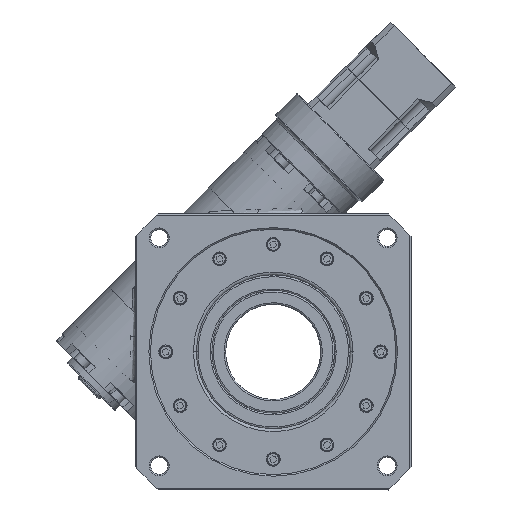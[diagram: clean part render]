
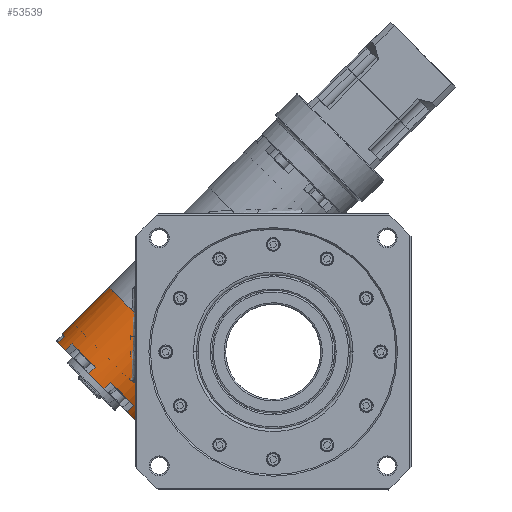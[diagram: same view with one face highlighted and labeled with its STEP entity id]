
A CAD part, front view. The second image highlights one B-rep face of the part: STEP entity #53539.
In plain terms, the highlighted cylindrical face has radius 37.5 mm (diameter 75 mm), a partial arc.
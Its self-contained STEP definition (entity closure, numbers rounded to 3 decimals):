
#22 = VECTOR ( 'NONE', #42313, 1000. ) ;
#556 = VERTEX_POINT ( 'NONE', #17928 ) ;
#611 = CARTESIAN_POINT ( 'NONE',  ( -16.566, -129.703, 58.207 ) ) ;
#612 = CARTESIAN_POINT ( 'NONE',  ( 39.145, -95.205, 45.965 ) ) ;
#816 = VERTEX_POINT ( 'NONE', #9110 ) ;
#972 = EDGE_CURVE ( 'NONE', #816, #16162, #9720, .T. ) ;
#1223 = AXIS2_PLACEMENT_3D ( 'NONE', #54467, #37429, #54764 ) ;
#1258 = CARTESIAN_POINT ( 'NONE',  ( 39.901, -85.964, 58.207 ) ) ;
#2791 = DIRECTION ( 'NONE',  ( 0.707, -0.707, 0. ) ) ;
#3148 = VECTOR ( 'NONE', #22027, 1000. ) ;
#3621 = AXIS2_PLACEMENT_3D ( 'NONE', #31977, #37576, #14004 ) ;
#3651 = DIRECTION ( 'NONE',  ( -0.707, 0.707, 0. ) ) ;
#4034 = CARTESIAN_POINT ( 'NONE',  ( -0.961, -135.312, 45.965 ) ) ;
#4318 = AXIS2_PLACEMENT_3D ( 'NONE', #9536, #27483, #45448 ) ;
#4796 = DIRECTION ( 'NONE',  ( 0.707, 0.707, 0. ) ) ;
#4930 = EDGE_CURVE ( 'NONE', #50950, #24517, #57398, .T. ) ;
#4992 = DIRECTION ( 'NONE',  ( 0.707, 0.707, 0. ) ) ;
#5672 = ORIENTED_EDGE ( 'NONE', *, *, #40994, .T. ) ;
#5806 = VERTEX_POINT ( 'NONE', #4034 ) ;
#6564 = DIRECTION ( 'NONE',  ( 0.707, 0.707, 0. ) ) ;
#7679 = AXIS2_PLACEMENT_3D ( 'NONE', #55433, #18910, #6564 ) ;
#7968 = EDGE_CURVE ( 'NONE', #11636, #52741, #32364, .T. ) ;
#9110 = CARTESIAN_POINT ( 'NONE',  ( -42.073, -107.127, 70.5 ) ) ;
#9222 = VECTOR ( 'NONE', #45268, 1000. ) ;
#9524 = CARTESIAN_POINT ( 'NONE',  ( 14.094, -120.256, 33.672 ) ) ;
#9536 = CARTESIAN_POINT ( 'NONE',  ( 14.849, -111.016, 70.5 ) ) ;
#9720 = CIRCLE ( 'NONE', #42647, 37.5 ) ;
#10022 = CARTESIAN_POINT ( 'NONE',  ( 19.092, -115.258, 70.5 ) ) ;
#11073 = CARTESIAN_POINT ( 'NONE',  ( 3.487, -109.65, 33.672 ) ) ;
#11117 = EDGE_CURVE ( 'NONE', #556, #56408, #54522, .T. ) ;
#11636 = VERTEX_POINT ( 'NONE', #39675 ) ;
#12481 = ORIENTED_EDGE ( 'NONE', *, *, #47192, .T. ) ;
#12783 = ORIENTED_EDGE ( 'NONE', *, *, #7968, .T. ) ;
#12990 = VERTEX_POINT ( 'NONE', #56941 ) ;
#13868 = LINE ( 'NONE', #45082, #20412 ) ;
#14004 = DIRECTION ( 'NONE',  ( 0.707, 0.707, 0. ) ) ;
#14123 = ORIENTED_EDGE ( 'NONE', *, *, #972, .T. ) ;
#14970 = AXIS2_PLACEMENT_3D ( 'NONE', #10022, #45946, #4992 ) ;
#15161 = EDGE_LOOP ( 'NONE', ( #37381, #14123, #48615, #12783, #44066, #24331, #44254, #28658, #12481, #38173, #23914, #34613, #5672, #29861, #15659, #32159 ) ) ;
#15659 = ORIENTED_EDGE ( 'NONE', *, *, #24553, .T. ) ;
#16162 = VERTEX_POINT ( 'NONE', #27688 ) ;
#16288 = DIRECTION ( 'NONE',  ( -0.707, 0.707, 0. ) ) ;
#17531 = FACE_OUTER_BOUND ( 'NONE', #15161, .T. ) ;
#17928 = CARTESIAN_POINT ( 'NONE',  ( -10.202, -136.067, 58.207 ) ) ;
#18910 = DIRECTION ( 'NONE',  ( -0.707, 0.707, 0. ) ) ;
#19414 = DIRECTION ( 'NONE',  ( 0.707, 0.707, 0. ) ) ;
#20412 = VECTOR ( 'NONE', #49806, 1000. ) ;
#21281 = DIRECTION ( 'NONE',  ( -0.707, 0.707, 0. ) ) ;
#21813 = CARTESIAN_POINT ( 'NONE',  ( -11.568, -124.705, 45.965 ) ) ;
#21966 = LINE ( 'NONE', #41452, #9222 ) ;
#22027 = DIRECTION ( 'NONE',  ( -0.707, 0.707, 0. ) ) ;
#22413 = CARTESIAN_POINT ( 'NONE',  ( 34.903, -90.962, 45.965 ) ) ;
#22453 = CARTESIAN_POINT ( 'NONE',  ( 19.092, -115.258, 70.5 ) ) ;
#23011 = LINE ( 'NONE', #611, #31966 ) ;
#23503 = CARTESIAN_POINT ( 'NONE',  ( 19.847, -106.018, 33.672 ) ) ;
#23737 = AXIS2_PLACEMENT_3D ( 'NONE', #22453, #3651, #35210 ) ;
#23914 = ORIENTED_EDGE ( 'NONE', *, *, #50911, .T. ) ;
#24331 = ORIENTED_EDGE ( 'NONE', *, *, #42548, .T. ) ;
#24379 = CARTESIAN_POINT ( 'NONE',  ( -18.031, -131.168, 70.5 ) ) ;
#24517 = VERTEX_POINT ( 'NONE', #22413 ) ;
#24553 = EDGE_CURVE ( 'NONE', #51479, #556, #23011, .T. ) ;
#24684 = DIRECTION ( 'NONE',  ( -0.707, 0.707, 0. ) ) ;
#26878 = VECTOR ( 'NONE', #16288, 1000. ) ;
#27483 = DIRECTION ( 'NONE',  ( -0.707, 0.707, 0. ) ) ;
#27688 = CARTESIAN_POINT ( 'NONE',  ( 10.96, -54.094, 70.5 ) ) ;
#28658 = ORIENTED_EDGE ( 'NONE', *, *, #51170, .T. ) ;
#29287 = LINE ( 'NONE', #11073, #26878 ) ;
#29413 = LINE ( 'NONE', #24379, #37425 ) ;
#29672 = DIRECTION ( 'NONE',  ( 0.707, 0.707, 0. ) ) ;
#29750 = AXIS2_PLACEMENT_3D ( 'NONE', #51233, #24684, #19414 ) ;
#29861 = ORIENTED_EDGE ( 'NONE', *, *, #44022, .T. ) ;
#31008 = EDGE_CURVE ( 'NONE', #12990, #43722, #54119, .T. ) ;
#31286 = CIRCLE ( 'NONE', #23737, 37.5 ) ;
#31966 = VECTOR ( 'NONE', #21281, 1000. ) ;
#31977 = CARTESIAN_POINT ( 'NONE',  ( 8.485, -104.652, 70.5 ) ) ;
#32159 = ORIENTED_EDGE ( 'NONE', *, *, #11117, .T. ) ;
#32364 = CIRCLE ( 'NONE', #1223, 37.5 ) ;
#33166 = LINE ( 'NONE', #41726, #22 ) ;
#34613 = ORIENTED_EDGE ( 'NONE', *, *, #31008, .T. ) ;
#34808 = CARTESIAN_POINT ( 'NONE',  ( 44.143, -90.207, 58.207 ) ) ;
#35067 = CARTESIAN_POINT ( 'NONE',  ( 24.09, -110.26, 33.672 ) ) ;
#35210 = DIRECTION ( 'NONE',  ( 0.707, 0.707, 0. ) ) ;
#35364 = CARTESIAN_POINT ( 'NONE',  ( 28.539, -84.598, 45.965 ) ) ;
#36339 = CARTESIAN_POINT ( 'NONE',  ( 14.849, -111.016, 70.5 ) ) ;
#37381 = ORIENTED_EDGE ( 'NONE', *, *, #41552, .F. ) ;
#37425 = VECTOR ( 'NONE', #47705, 1000. ) ;
#37429 = DIRECTION ( 'NONE',  ( -0.707, 0.707, 0. ) ) ;
#37576 = DIRECTION ( 'NONE',  ( 0.707, -0.707, 0. ) ) ;
#38173 = ORIENTED_EDGE ( 'NONE', *, *, #45808, .T. ) ;
#38843 = EDGE_CURVE ( 'NONE', #52741, #55076, #13868, .T. ) ;
#39675 = CARTESIAN_POINT ( 'NONE',  ( 41.366, -84.499, 70.5 ) ) ;
#40994 = EDGE_CURVE ( 'NONE', #43722, #5806, #49559, .T. ) ;
#41042 = DIRECTION ( 'NONE',  ( -0.707, 0.707, 0. ) ) ;
#41421 = CARTESIAN_POINT ( 'NONE',  ( -11.667, -137.532, 70.5 ) ) ;
#41452 = CARTESIAN_POINT ( 'NONE',  ( 35.002, -78.135, 70.5 ) ) ;
#41552 = EDGE_CURVE ( 'NONE', #816, #56408, #29413, .T. ) ;
#41681 = EDGE_CURVE ( 'NONE', #16162, #11636, #21966, .T. ) ;
#41726 = CARTESIAN_POINT ( 'NONE',  ( 13.483, -99.654, 33.672 ) ) ;
#42313 = DIRECTION ( 'NONE',  ( 0.707, -0.707, 0. ) ) ;
#42548 = EDGE_CURVE ( 'NONE', #55076, #50950, #56353, .T. ) ;
#42647 = AXIS2_PLACEMENT_3D ( 'NONE', #48213, #2791, #29672 ) ;
#43722 = VERTEX_POINT ( 'NONE', #54337 ) ;
#44022 = EDGE_CURVE ( 'NONE', #5806, #51479, #53734, .T. ) ;
#44066 = ORIENTED_EDGE ( 'NONE', *, *, #38843, .T. ) ;
#44254 = ORIENTED_EDGE ( 'NONE', *, *, #4930, .T. ) ;
#45082 = CARTESIAN_POINT ( 'NONE',  ( 33.537, -79.6, 58.207 ) ) ;
#45268 = DIRECTION ( 'NONE',  ( 0.707, -0.707, 0. ) ) ;
#45448 = DIRECTION ( 'NONE',  ( 0.707, 0.707, 0. ) ) ;
#45808 = EDGE_CURVE ( 'NONE', #47611, #54923, #31286, .T. ) ;
#45946 = DIRECTION ( 'NONE',  ( -0.707, 0.707, 0. ) ) ;
#47192 = EDGE_CURVE ( 'NONE', #49645, #47611, #33166, .T. ) ;
#47611 = VERTEX_POINT ( 'NONE', #35067 ) ;
#47705 = DIRECTION ( 'NONE',  ( 0.707, -0.707, 0. ) ) ;
#48213 = CARTESIAN_POINT ( 'NONE',  ( -15.556, -80.61, 70.5 ) ) ;
#48615 = ORIENTED_EDGE ( 'NONE', *, *, #41681, .T. ) ;
#48701 = DIRECTION ( 'NONE',  ( 0.707, -0.707, 0. ) ) ;
#49077 = CYLINDRICAL_SURFACE ( 'NONE', #3621, 37.5 ) ;
#49559 = LINE ( 'NONE', #21813, #57990 ) ;
#49645 = VERTEX_POINT ( 'NONE', #23503 ) ;
#49806 = DIRECTION ( 'NONE',  ( 0.707, -0.707, 0. ) ) ;
#50911 = EDGE_CURVE ( 'NONE', #54923, #12990, #29287, .T. ) ;
#50950 = VERTEX_POINT ( 'NONE', #612 ) ;
#51170 = EDGE_CURVE ( 'NONE', #24517, #49645, #55118, .T. ) ;
#51233 = CARTESIAN_POINT ( 'NONE',  ( 14.849, -111.016, 70.5 ) ) ;
#51479 = VERTEX_POINT ( 'NONE', #58151 ) ;
#52741 = VERTEX_POINT ( 'NONE', #1258 ) ;
#53539 = ADVANCED_FACE ( 'NONE', ( #17531 ), #49077, .T. ) ;
#53626 = AXIS2_PLACEMENT_3D ( 'NONE', #36339, #41042, #4796 ) ;
#53734 = CIRCLE ( 'NONE', #7679, 37.5 ) ;
#54119 = CIRCLE ( 'NONE', #4318, 37.5 ) ;
#54337 = CARTESIAN_POINT ( 'NONE',  ( -5.204, -131.069, 45.965 ) ) ;
#54467 = CARTESIAN_POINT ( 'NONE',  ( 14.849, -111.016, 70.5 ) ) ;
#54522 = CIRCLE ( 'NONE', #53626, 37.5 ) ;
#54764 = DIRECTION ( 'NONE',  ( 0.707, 0.707, 0. ) ) ;
#54923 = VERTEX_POINT ( 'NONE', #9524 ) ;
#55076 = VERTEX_POINT ( 'NONE', #34808 ) ;
#55118 = CIRCLE ( 'NONE', #29750, 37.5 ) ;
#55433 = CARTESIAN_POINT ( 'NONE',  ( 19.092, -115.258, 70.5 ) ) ;
#56353 = CIRCLE ( 'NONE', #14970, 37.5 ) ;
#56408 = VERTEX_POINT ( 'NONE', #41421 ) ;
#56941 = CARTESIAN_POINT ( 'NONE',  ( 9.851, -116.014, 33.672 ) ) ;
#57398 = LINE ( 'NONE', #35364, #3148 ) ;
#57990 = VECTOR ( 'NONE', #48701, 1000. ) ;
#58151 = CARTESIAN_POINT ( 'NONE',  ( -5.959, -140.31, 58.207 ) ) ;
